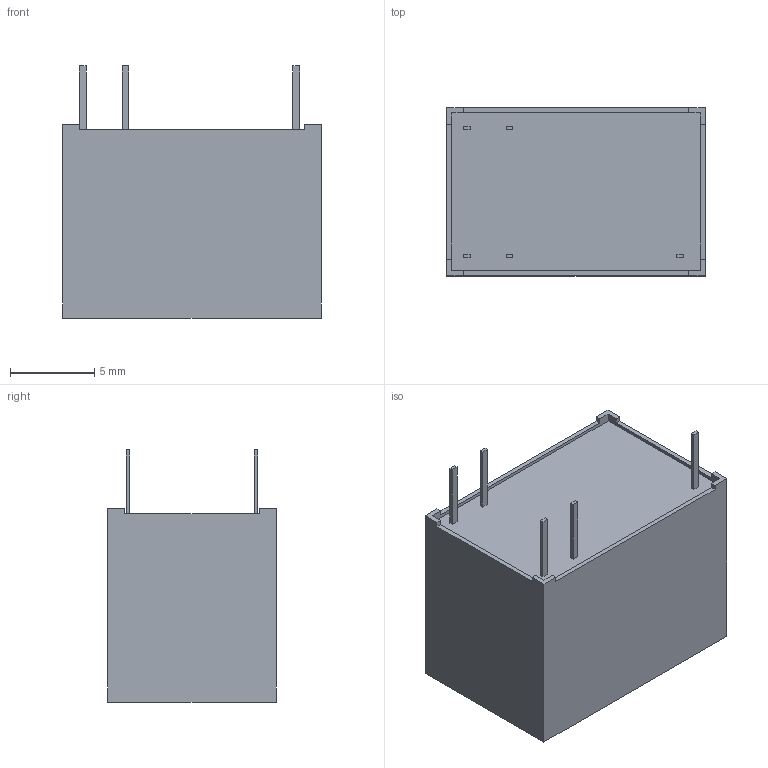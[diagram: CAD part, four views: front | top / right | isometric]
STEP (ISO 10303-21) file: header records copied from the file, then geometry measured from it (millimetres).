
FILE_DESCRIPTION((''),'2;1');
FILE_NAME('C-1-1422028-2','2022-09-30T06:52:16',('workeradm'),('TE Connectivity Ltd.'),'CREO PARAMETRIC BY PTC INC, 2021072','CREO PARAMETRIC BY PTC INC, 2021072','');
FILE_SCHEMA(('AUTOMOTIVE_DESIGN { 1 0 10303 214 1 1 1 1 }'));
Length unit declared in the file: millimetre
Products named in the file (1): C-1-1422028-2
Bounding box: 15.4 x 10 x 15 mm (x, y, z)
Volume: 1699.2 mm3; surface area: 915.4 mm2
Topology: 1 solids, 1 shells, 51 faces, 132 edges, 88 vertices
Faces by surface type: plane 51
Entity records: 1570 total; most frequent: CARTESIAN_POINT 273, ORIENTED_EDGE 264, DIRECTION 234, VECTOR 132, LINE 132, EDGE_CURVE 132, VERTEX_POINT 88, EDGE_LOOP 56
